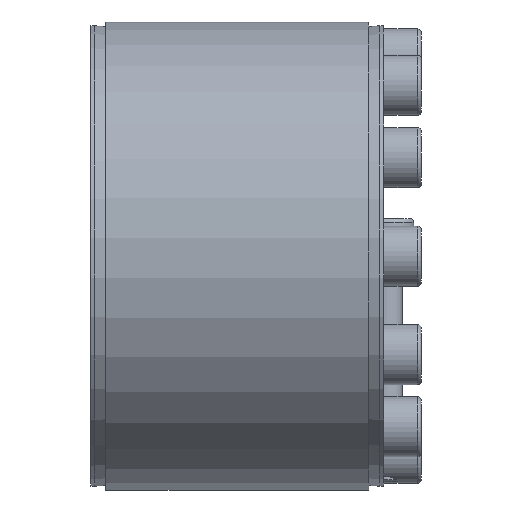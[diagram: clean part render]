
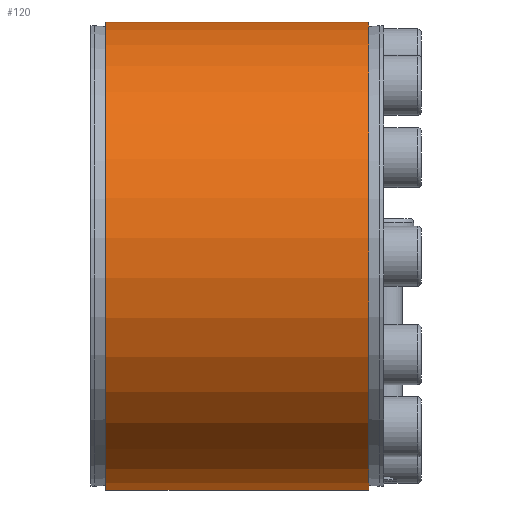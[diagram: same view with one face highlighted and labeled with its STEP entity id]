
A CAD part, left-side view. The second image highlights one B-rep face of the part: STEP entity #120.
In plain terms, the highlighted cylindrical face has radius 62.5 mm (diameter 125 mm), a partial arc.
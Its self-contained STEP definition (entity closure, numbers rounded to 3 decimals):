
#120 = ADVANCED_FACE( '', ( #298 ), #299, .T. );
#298 = FACE_OUTER_BOUND( '', #612, .T. );
#299 = CYLINDRICAL_SURFACE( '', #613, 62.5 );
#612 = EDGE_LOOP( '', ( #984, #985, #986, #987 ) );
#613 = AXIS2_PLACEMENT_3D( '', #988, #989, #990 );
#984 = ORIENTED_EDGE( '', *, *, #1486, .F. );
#985 = ORIENTED_EDGE( '', *, *, #1487, .T. );
#986 = ORIENTED_EDGE( '', *, *, #1488, .F. );
#987 = ORIENTED_EDGE( '', *, *, #1489, .F. );
#988 = CARTESIAN_POINT( '', ( 0., -60., 0. ) );
#989 = DIRECTION( '', ( 0., 1., 0. ) );
#990 = DIRECTION( '', ( 0., 0., -1. ) );
#1486 = EDGE_CURVE( '', #1766, #1767, #1768, .T. );
#1487 = EDGE_CURVE( '', #1766, #1769, #1770, .T. );
#1488 = EDGE_CURVE( '', #1771, #1769, #1772, .F. );
#1489 = EDGE_CURVE( '', #1767, #1771, #1773, .T. );
#1766 = VERTEX_POINT( '', #2207 );
#1767 = VERTEX_POINT( '', #2208 );
#1768 = LINE( '', #2209, #2210 );
#1769 = VERTEX_POINT( '', #2211 );
#1770 = CIRCLE( '', #2212, 62.5 );
#1771 = VERTEX_POINT( '', #2213 );
#1772 = LINE( '', #2214, #2215 );
#1773 = CIRCLE( '', #2216, 62.5 );
#2207 = CARTESIAN_POINT( '', ( 14.966, 74., 60.682 ) );
#2208 = CARTESIAN_POINT( '', ( 14.966, 4., 60.682 ) );
#2209 = CARTESIAN_POINT( '', ( 14.966, -60., 60.682 ) );
#2210 = VECTOR( '', #2593, 1000. );
#2211 = CARTESIAN_POINT( '', ( 17.38, 74., 60.035 ) );
#2212 = AXIS2_PLACEMENT_3D( '', #2594, #2595, #2596 );
#2213 = CARTESIAN_POINT( '', ( 17.38, 4., 60.035 ) );
#2214 = CARTESIAN_POINT( '', ( 17.38, -60., 60.035 ) );
#2215 = VECTOR( '', #2597, 1000. );
#2216 = AXIS2_PLACEMENT_3D( '', #2598, #2599, #2600 );
#2593 = DIRECTION( '', ( 0., -1., 0. ) );
#2594 = CARTESIAN_POINT( '', ( 0., 74., 0. ) );
#2595 = DIRECTION( '', ( 0., -1., 0. ) );
#2596 = DIRECTION( '', ( 0., 0., -1. ) );
#2597 = DIRECTION( '', ( 0., -1., 0. ) );
#2598 = CARTESIAN_POINT( '', ( 0., 4., 0. ) );
#2599 = DIRECTION( '', ( 0., -1., 0. ) );
#2600 = DIRECTION( '', ( 0., 0., -1. ) );
